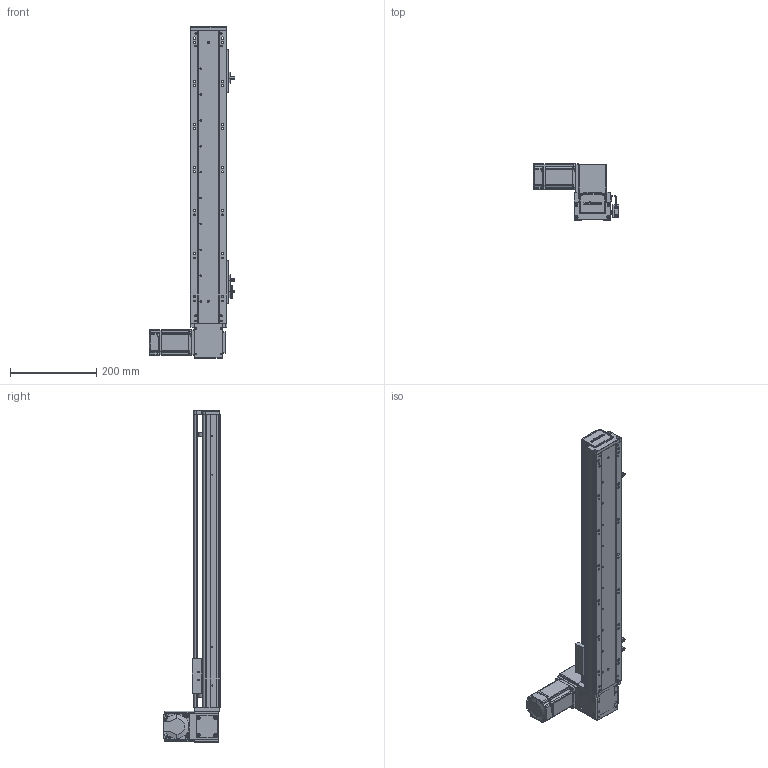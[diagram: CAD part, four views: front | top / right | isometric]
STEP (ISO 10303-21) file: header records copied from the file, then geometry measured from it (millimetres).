
FILE_DESCRIPTION (( 'STEP AP203' ), '1' );
FILE_NAME ('RY80-T-300-UL.SLDASM_500.step', '2021-03-01T02:16:29', ( '盈信电脑' ), ( '东莞市道滘镇水果街19号' ), 'SwSTEP 2.0', 'SolidWorks 2012', '' );
FILE_SCHEMA (( 'CONFIG_CONTROL_DESIGN' ));
Products named in the file (19): RY80-T-300-UL.SLDASM_500; RY80-T-上下折同步轮盖板; RY80-T肮祭謫奻殏俋欶; RY80-T-M4蹟翐2; RY80-T翋肮祭謫裔啣; 1; 滅袉蝶18-10; RY80-T粣創揤踡輸; RY80-T萇儂假蚾啣; RY80-T肮祭湍揤輸2; RY80俋离覜茼え; RY80-T肮祭湍揤輸1; RY80-T-翋肮祭謫釱; 672嫖萇羲壽假蚾釱; 覜茼ん672; RY80-T-300-UL倰第奻裔啣_500; RY80-T綴裔啣; RY80-T-300-UL倰第菁釱_500; RY80-T肮祭謫臏賑輸
Assembly tree (24 placements, depth 2):
  RY80-T-300-UL.SLDASM_500
    RY80-T-300-UL倰第菁釱_500
    RY80-T肮祭謫臏賑輸
    RY80-T-300-UL倰第奻裔啣_500
    RY80-T綴裔啣
    672嫖萇羲壽假蚾釱  x2
    覜茼ん672  x3
    RY80俋离覜茼え
    RY80-T-翋肮祭謫釱
    RY80-T肮祭湍揤輸1
    RY80-T肮祭湍揤輸2
    RY80-T萇儂假蚾啣
    RY80-T粣創揤踡輸  x2
    滅袉蝶18-10  x2
    RY80-T翋肮祭謫裔啣
    1
    RY80-T肮祭謫奻殏俋欶
    RY80-T-M4蹟翐2  x2
    RY80-T-上下折同步轮盖板
Bounding box: 198.7 x 130.5 x 770 mm (x, y, z)
Volume: 1544300.4 mm3; surface area: 626948.9 mm2
Topology: 24 solids, 24 shells, 2494 faces, 6855 edges, 4451 vertices
Faces by surface type: plane 1348, cylinder 942, cone 148, bspline 56
Entity records: 77659 total; most frequent: CARTESIAN_POINT 18750, ORIENTED_EDGE 12094, DIRECTION 11368, EDGE_CURVE 6047, VERTEX_POINT 3972, AXIS2_PLACEMENT_3D 3810, VECTOR 3748, LINE 3748
